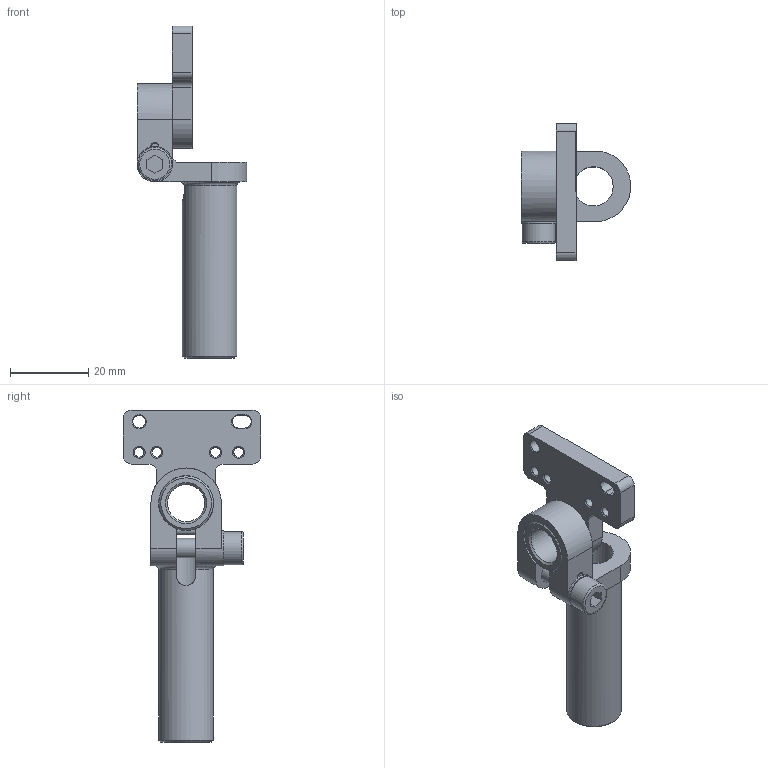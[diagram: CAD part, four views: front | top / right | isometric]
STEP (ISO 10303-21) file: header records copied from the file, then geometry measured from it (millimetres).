
FILE_DESCRIPTION(/* description */ ('Norm'),/* implementation_level */ '2;1');
FILE_NAME(/* name */ 'W:\Technik\Konstruktion\CAD-Daten\EOAT\GS_\GS03.14045\Kundenzeichnung\GS03.14045 - Kd.stp',/* time_stamp */ '2020-03-10T09:01:12+01:00',/* author */ ('Rkob'),/* organization */ (''),/* preprocessor_version */ 'ST-DEVELOPER v17',/* originating_system */ 'Autodesk Inventor 2019',/* authorisation */ '');
FILE_SCHEMA (('AUTOMOTIVE_DESIGN { 1 0 10303 214 3 1 1 }'));
Length unit declared in the file: millimetre
Products named in the file (1): GS03.14045 - Kd_Shrinkwrap_1
Bounding box: 28 x 35 x 84.8 mm (x, y, z)
Volume: 10234.5 mm3; surface area: 9122.3 mm2
Topology: 1 solids, 1 shells, 104 faces, 280 edges, 178 vertices
Faces by surface type: plane 44, cylinder 33, cone 24, torus 3
Full cylindrical faces by diameter (mm): 2 x1, 2.1 x2, 2.459 x4, 3.2 x1, 4.459 x1, 5 x1, 5.2 x1, 5.3 x1, 8.5 x1, 9 x1, 9.5 x1, 10 x1, 13.95 x3
Entity records: 3567 total; most frequent: CARTESIAN_POINT 660, DIRECTION 602, ORIENTED_EDGE 558, EDGE_CURVE 279, AXIS2_PLACEMENT_3D 226, VERTEX_POINT 178, LINE 150, VECTOR 150
